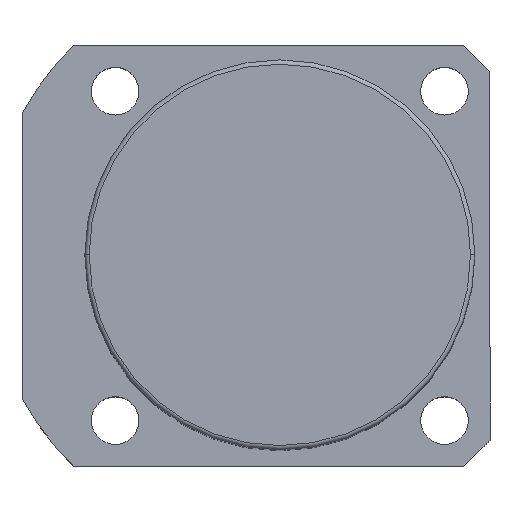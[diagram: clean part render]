
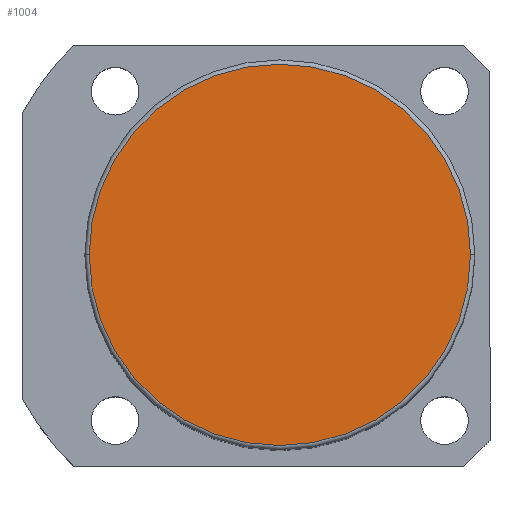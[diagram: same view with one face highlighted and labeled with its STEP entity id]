
A CAD part, top view. The second image highlights one B-rep face of the part: STEP entity #1004.
In plain terms, the highlighted planar face has unit normal (0, 0, 1).
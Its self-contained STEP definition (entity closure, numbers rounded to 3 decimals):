
#3 = DIRECTION ( 'NONE',  ( 0., 0., 1. ) ) ;
#89 = CARTESIAN_POINT ( 'NONE',  ( -44., 0., 146.5 ) ) ;
#133 = DIRECTION ( 'NONE',  ( 1., 0., 0. ) ) ;
#324 = DIRECTION ( 'NONE',  ( 1., 0., 0. ) ) ;
#586 = CARTESIAN_POINT ( 'NONE',  ( 0., 0., 146.5 ) ) ;
#712 = DIRECTION ( 'NONE',  ( 0., 0., 1. ) ) ;
#762 = EDGE_LOOP ( 'NONE', ( #1283, #1007 ) ) ;
#848 = VERTEX_POINT ( 'NONE', #89 ) ;
#866 = CARTESIAN_POINT ( 'NONE',  ( 0., 0., 146.5 ) ) ;
#994 = PLANE ( 'NONE',  #1194 ) ;
#1004 = ADVANCED_FACE ( 'NONE', ( #1014 ), #994, .T. ) ;
#1007 = ORIENTED_EDGE ( 'NONE', *, *, #1733, .T. ) ;
#1014 = FACE_OUTER_BOUND ( 'NONE', #762, .T. ) ;
#1031 = DIRECTION ( 'NONE',  ( 0., 0., 1. ) ) ;
#1194 = AXIS2_PLACEMENT_3D ( 'NONE', #1518, #712, #1937 ) ;
#1218 = CARTESIAN_POINT ( 'NONE',  ( 44., 0., 146.5 ) ) ;
#1283 = ORIENTED_EDGE ( 'NONE', *, *, #1780, .T. ) ;
#1518 = CARTESIAN_POINT ( 'NONE',  ( 0., 0., 146.5 ) ) ;
#1583 = AXIS2_PLACEMENT_3D ( 'NONE', #586, #3, #324 ) ;
#1614 = CIRCLE ( 'NONE', #1676, 44. ) ;
#1676 = AXIS2_PLACEMENT_3D ( 'NONE', #866, #1031, #133 ) ;
#1733 = EDGE_CURVE ( 'NONE', #848, #1751, #1614, .T. ) ;
#1751 = VERTEX_POINT ( 'NONE', #1218 ) ;
#1755 = CIRCLE ( 'NONE', #1583, 44. ) ;
#1780 = EDGE_CURVE ( 'NONE', #1751, #848, #1755, .T. ) ;
#1937 = DIRECTION ( 'NONE',  ( 1., 0., 0. ) ) ;
